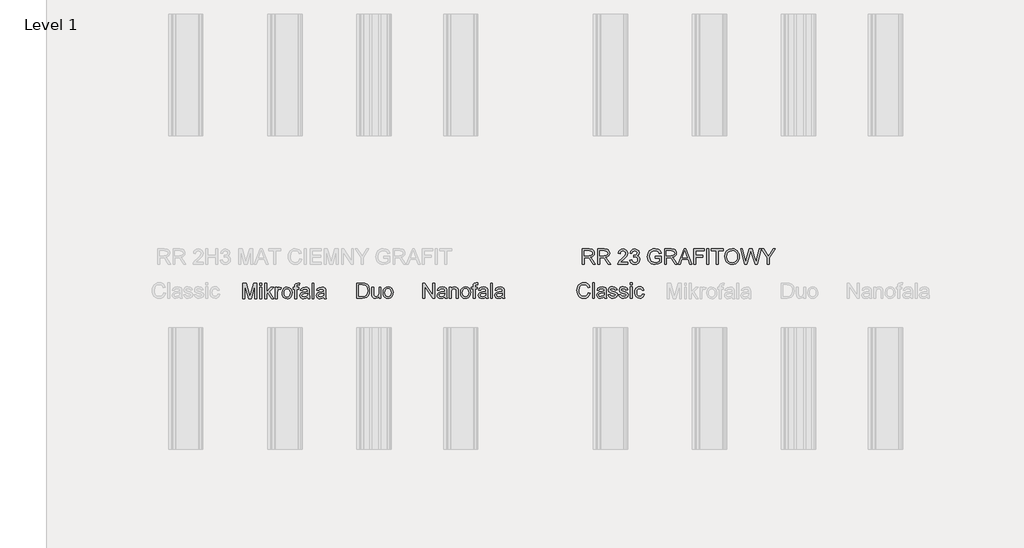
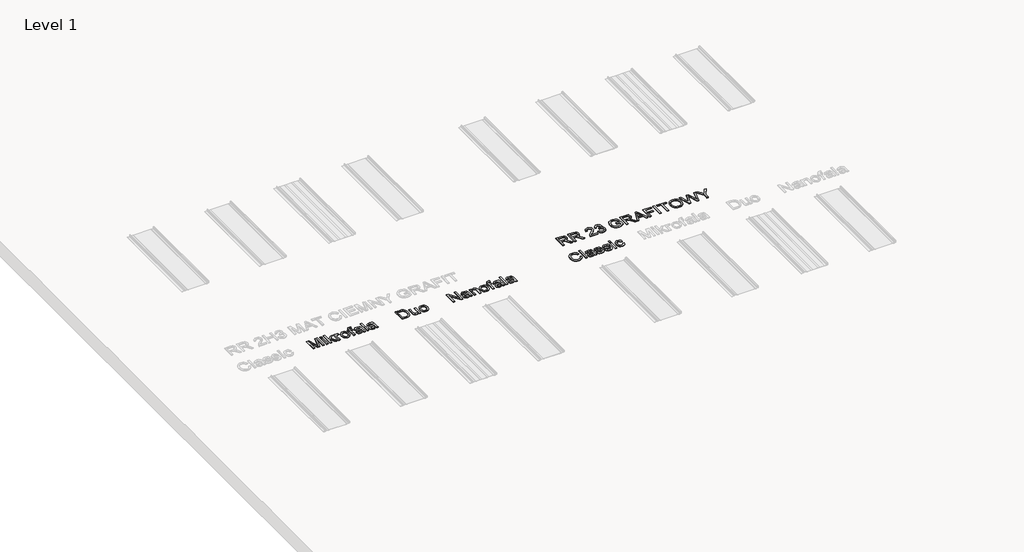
# One storey, part 14 of 24: 5 proxies.
"""IFC4 building model written with IfcOpenShell, lengths in millimetres."""

from ifc_helpers import new_model, si_unit, frame, origin, place, context, project, spatial, polyline, outline, extrude, element, save

model = new_model("IFC4")

# Units and contexts
model_context = context("Model", 3, world=origin())
ifc_project = project(units=[si_unit("LENGTHUNIT", "METRE", prefix="MILLI")], contexts=[model_context])

# Site, building, storey
site = spatial("IfcSite", under=ifc_project)
building = spatial("IfcBuilding", under=site)
storey = spatial("IfcBuildingStorey", under=building, Name="Level 1", Elevation=0.0)

# Proxies
placement = place(None, origin())
element("IfcBuildingElementProxy", 1, Name="150", ObjectType="150", at=placement, inside=storey, context=model_context, shape_type="SweptSolid", body=[
    extrude(outline(polyline([(-7895.6654959, -1975.281387), (-7895.6654959, -1824.5969218), (-7863.3654568, -1824.5969218), (-7832.4633692, -1930.8044538), (-7826.2093753, -1952.9877381), (-7819.4771347, -1928.9650438), (-7789.1636583, -1824.5969218), (-7756.7532546, -1824.5969218), (-7756.7532546, -1975.281387), (-7775.5888127, -1975.281387), (-7775.5888127, -1843.4324799), (-7813.44387, -1975.281387), (-7838.9380923, -1975.281387), (-7876.8299378, -1843.4324799), (-7876.8299378, -1975.281387), (-7895.6654959, -1975.281387)])), frame((0.0, 0.0, 600.0), z_axis=(0.0, 0.0, 1.0), x_axis=(1.0, 0.0, 0.0)), (0.0, 0.0, 1.0), 10.0),
    extrude(outline(polyline([(-7726.1454726, -1843.4324799), (-7726.1454726, -1824.5969218), (-7707.3099144, -1824.5969218), (-7707.3099144, -1843.4324799), (-7726.1454726, -1843.4324799)])), frame((0.0, 0.0, 600.0), z_axis=(0.0, 0.0, 1.0), x_axis=(1.0, 0.0, 0.0)), (0.0, 0.0, 1.0), 10.0),
    extrude(outline(polyline([(-7726.1454726, -1975.281387), (-7726.1454726, -1864.6224829), (-7707.3099144, -1864.6224829), (-7707.3099144, -1975.281387), (-7726.1454726, -1975.281387)])), frame((0.0, 0.0, 600.0), z_axis=(0.0, 0.0, 1.0), x_axis=(1.0, 0.0, 0.0)), (0.0, 0.0, 1.0), 10.0),
    extrude(outline(polyline([(-7679.0565772, -1975.281387), (-7679.0565772, -1824.5969218), (-7660.221019, -1824.5969218), (-7660.221019, -1905.5677489), (-7617.988166, -1864.6224829), (-7591.9421207, -1864.6224829), (-7634.7267968, -1906.0827837), (-7589.587676, -1975.281387), (-7611.5870193, -1975.281387), (-7648.228066, -1919.1793827), (-7660.221019, -1930.841242), (-7660.221019, -1975.281387), (-7679.0565772, -1975.281387)])), frame((0.0, 0.0, 600.0), z_axis=(0.0, 0.0, 1.0), x_axis=(1.0, 0.0, 0.0)), (0.0, 0.0, 1.0), 10.0),
    extrude(outline(polyline([(-7573.1065626, -1975.281387), (-7573.1065626, -1864.6224829), (-7556.6254492, -1864.6224829), (-7556.6254492, -1880.9932316), (-7544.9268017, -1865.9100698), (-7533.1545779, -1862.2680381), (-7514.2454433, -1868.0805736), (-7520.5362255, -1884.9663572), (-7533.7799773, -1881.1035962), (-7544.4301611, -1884.8192044), (-7551.2175839, -1895.1199003), (-7554.2710044, -1917.1192436), (-7554.2710044, -1975.281387), (-7573.1065626, -1975.281387)])), frame((0.0, 0.0, 600.0), z_axis=(0.0, 0.0, 1.0), x_axis=(1.0, 0.0, 0.0)), (0.0, 0.0, 1.0), 10.0),
    extrude(outline(polyline([(-7507.182109, -1919.9519349), (-7503.1078159, -1893.2712932), (-7490.8849367, -1874.5185085), (-7475.7833808, -1865.3306557), (-7457.7019807, -1862.2680381), (-7437.9145279, -1865.9974418), (-7422.1093977, -1877.185653), (-7411.748921, -1894.9497548), (-7408.2954287, -1918.4068306), (-7409.822139, -1937.4355268), (-7414.4022699, -1951.9208803), (-7421.902464, -1962.7688007), (-7432.1893643, -1970.8851972), (-7444.4076451, -1975.9481731), (-7457.7019807, -1977.6358318), (-7477.7285568, -1973.9202236), (-7493.5152929, -1962.7733992), (-7503.765405, -1944.6368168), (-7507.182109, -1919.9519349)]), holes=[polyline([(-7488.3465509, -1919.9151467), (-7486.1668501, -1936.9618787), (-7479.6277476, -1949.1065831), (-7469.7869042, -1956.376851), (-7457.7019807, -1958.8002736), (-7445.6722394, -1956.3630554), (-7435.8497902, -1949.0514008), (-7429.3106877, -1936.745748), (-7427.1309869, -1919.3265355), (-7429.3244833, -1902.7764443), (-7435.9049725, -1890.7972868), (-7445.7412173, -1883.5270189), (-7457.7019807, -1881.1035962), (-7469.7869042, -1883.5178218), (-7479.6277476, -1890.7604986), (-7486.1668501, -1902.8776118), (-7488.3465509, -1919.9151467)])]), frame((0.0, 0.0, 600.0), z_axis=(0.0, 0.0, 1.0), x_axis=(1.0, 0.0, 0.0)), (0.0, 0.0, 1.0), 10.0),
    extrude(outline(polyline([(-7382.3965363, -1975.281387), (-7382.3965363, -1883.458041), (-7398.8776497, -1883.458041), (-7398.8776497, -1864.6224829), (-7382.3965363, -1864.6224829), (-7382.3965363, -1853.4756584), (-7380.4099735, -1837.7670972), (-7370.7714652, -1826.5466964), (-7351.7887543, -1822.242477), (-7334.6086651, -1824.3026162), (-7337.3677801, -1841.960952), (-7348.2202989, -1841.0780352), (-7360.0844933, -1844.2050321), (-7363.5609781, -1855.8668914), (-7363.5609781, -1864.6224829), (-7342.3709752, -1864.6224829), (-7342.3709752, -1883.458041), (-7363.5609781, -1883.458041), (-7363.5609781, -1975.281387), (-7382.3965363, -1975.281387)])), frame((0.0, 0.0, 600.0), z_axis=(0.0, 0.0, 1.0), x_axis=(1.0, 0.0, 0.0)), (0.0, 0.0, 1.0), 10.0),
    extrude(outline(polyline([(-7255.2565187, -1961.1547184), (-7273.5218598, -1973.9202236), (-7293.7001872, -1977.6358318), (-7309.4409381, -1975.4009487), (-7321.0522136, -1968.6962993), (-7328.2121169, -1958.5151651), (-7330.5987514, -1945.8508274), (-7326.9935078, -1930.9516066), (-7317.5205464, -1920.1358759), (-7304.3319769, -1913.9554584), (-7288.0348045, -1911.1227671), (-7255.3668833, -1904.6480439), (-7255.2565187, -1900.4541892), (-7256.5533028, -1892.0480856), (-7260.4436549, -1886.5482498), (-7269.1440641, -1882.4647596), (-7281.2657758, -1881.1035962), (-7300.3220632, -1884.7272339), (-7309.4087484, -1897.5847096), (-7328.2443066, -1895.2302649), (-7320.0957204, -1876.8361651), (-7303.6881834, -1866.0572226), (-7278.8377546, -1862.2680381), (-7256.0106768, -1865.6157643), (-7243.1164129, -1874.0218678), (-7237.3406656, -1886.8057672), (-7236.4209606, -1903.2868806), (-7236.4209606, -1926.7209636), (-7235.4644674, -1959.4440671), (-7231.7120711, -1975.281387), (-7250.5476292, -1975.281387), (-7255.2565187, -1961.1547184)]), holes=[polyline([(-7255.2565187, -1923.4836021), (-7285.6435715, -1929.2593494), (-7301.8487734, -1932.31277), (-7309.1880192, -1937.2791769), (-7311.7631932, -1944.5264522), (-7306.1529928, -1954.7167835), (-7289.6902735, -1958.8002736), (-7270.6339861, -1954.2937192), (-7258.3467275, -1943.386018), (-7255.3668833, -1928.817891), (-7255.2565187, -1923.4836021)])]), frame((0.0, 0.0, 600.0), z_axis=(0.0, 0.0, 1.0), x_axis=(1.0, 0.0, 0.0)), (0.0, 0.0, 1.0), 10.0),
    extrude(outline(polyline([(-7210.5220681, -1975.281387), (-7210.5220681, -1824.5969218), (-7191.68651, -1824.5969218), (-7191.68651, -1975.281387), (-7210.5220681, -1975.281387)])), frame((0.0, 0.0, 600.0), z_axis=(0.0, 0.0, 1.0), x_axis=(1.0, 0.0, 0.0)), (0.0, 0.0, 1.0), 10.0),
    extrude(outline(polyline([(-7092.7998297, -1961.1547184), (-7111.0651707, -1973.9202236), (-7131.2434982, -1977.6358318), (-7146.984249, -1975.4009487), (-7158.5955245, -1968.6962993), (-7165.7554278, -1958.5151651), (-7168.1420623, -1945.8508274), (-7164.5368187, -1930.9516066), (-7155.0638574, -1920.1358759), (-7141.8752878, -1913.9554584), (-7125.5781154, -1911.1227671), (-7092.9101943, -1904.6480439), (-7092.7998297, -1900.4541892), (-7094.0966137, -1892.0480856), (-7097.9869658, -1886.5482498), (-7106.687375, -1882.4647596), (-7118.8090867, -1881.1035962), (-7137.8653741, -1884.7272339), (-7146.9520594, -1897.5847096), (-7165.7876175, -1895.2302649), (-7157.6390313, -1876.8361651), (-7141.2314943, -1866.0572226), (-7116.3810656, -1862.2680381), (-7093.5539878, -1865.6157643), (-7080.6597238, -1874.0218678), (-7074.8839765, -1886.8057672), (-7073.9642715, -1903.2868806), (-7073.9642715, -1926.7209636), (-7073.0077783, -1959.4440671), (-7069.255382, -1975.281387), (-7088.0909401, -1975.281387), (-7092.7998297, -1961.1547184)]), holes=[polyline([(-7092.7998297, -1923.4836021), (-7123.1868825, -1929.2593494), (-7139.3920844, -1932.31277), (-7146.7313302, -1937.2791769), (-7149.3065041, -1944.5264522), (-7143.6963037, -1954.7167835), (-7127.2335844, -1958.8002736), (-7108.1772971, -1954.2937192), (-7095.8900384, -1943.386018), (-7092.9101943, -1928.817891), (-7092.7998297, -1923.4836021)])]), frame((0.0, 0.0, 600.0), z_axis=(0.0, 0.0, 1.0), x_axis=(1.0, 0.0, 0.0)), (0.0, 0.0, 1.0), 10.0),
])
element("IfcBuildingElementProxy", 2, Name="150", ObjectType="150", at=placement, inside=storey, context=model_context, shape_type="SweptSolid", body=[
    extrude(outline(polyline([(-6767.5807075, -1972.1592468), (-6767.5807075, -1821.4747816), (-6715.5989816, -1821.4747816), (-6688.7068077, -1823.6452853), (-6666.5603116, -1834.4242278), (-6656.1400541, -1845.902146), (-6648.7180349, -1860.1759675), (-6644.2758598, -1876.9697805), (-6642.7951347, -1896.0076738), (-6646.8050485, -1926.4131207), (-6657.1057443, -1948.3572817), (-6670.864531, -1962.0240978), (-6688.8723546, -1969.5840728), (-6713.097384, -1972.1592468), (-6767.5807075, -1972.1592468)]), holes=[polyline([(-6748.7451493, -1953.3236886), (-6715.4150406, -1953.3236886), (-6691.1716171, -1950.6013619), (-6677.1921013, -1942.9126282), (-6665.7325771, -1924.2058287), (-6661.6306929, -1895.7133682), (-6663.6402483, -1875.1855529), (-6669.6689145, -1860.0288147), (-6678.5762573, -1849.6177542), (-6689.2218425, -1843.3269721), (-6715.9300754, -1840.3103397), (-6748.7451493, -1840.3103397), (-6748.7451493, -1953.3236886)])]), frame((0.0, 0.0, 600.0), z_axis=(0.0, 0.0, 1.0), x_axis=(1.0, 0.0, 0.0)), (0.0, 0.0, 1.0), 10.0),
    extrude(outline(polyline([(-6548.617344, -1972.1592468), (-6548.617344, -1953.1397476), (-6563.369412, -1969.1702056), (-6582.6096403, -1974.5136916), (-6600.3231584, -1970.7612952), (-6612.5368406, -1961.3435161), (-6618.1470411, -1947.4743649), (-6619.250687, -1929.9631819), (-6619.250687, -1861.5003426), (-6600.4151289, -1861.5003426), (-6600.4151289, -1921.0972259), (-6599.2746947, -1940.300666), (-6591.8250843, -1951.5762492), (-6577.7903862, -1955.6781334), (-6562.0634309, -1951.4842787), (-6551.6707645, -1940.0615427), (-6548.617344, -1919.0738749), (-6548.617344, -1861.5003426), (-6529.7817858, -1861.5003426), (-6529.7817858, -1972.1592468), (-6548.617344, -1972.1592468)])), frame((0.0, 0.0, 600.0), z_axis=(0.0, 0.0, 1.0), x_axis=(1.0, 0.0, 0.0)), (0.0, 0.0, 1.0), 10.0),
    extrude(outline(polyline([(-6508.5917829, -1916.8297947), (-6504.5174898, -1890.149153), (-6492.2946105, -1871.3963683), (-6477.1930546, -1862.2085155), (-6459.1116545, -1859.1458979), (-6439.3242017, -1862.8753016), (-6423.5190715, -1874.0635128), (-6413.1585948, -1891.8276146), (-6409.7051026, -1915.2846903), (-6411.2318129, -1934.3133865), (-6415.8119437, -1948.7987401), (-6423.3121379, -1959.6466604), (-6433.5990382, -1967.7630569), (-6445.8173189, -1972.8260329), (-6459.1116545, -1974.5136916), (-6479.1382307, -1970.7980834), (-6494.9249668, -1959.651259), (-6505.1750789, -1941.5146766), (-6508.5917829, -1916.8297947)]), holes=[polyline([(-6489.7562247, -1916.7930065), (-6487.5765239, -1933.8397385), (-6481.0374215, -1945.9844428), (-6471.1965781, -1953.2547108), (-6459.1116545, -1955.6781334), (-6447.0819133, -1953.2409152), (-6437.259464, -1945.9292605), (-6430.7203616, -1933.6236078), (-6428.5406607, -1916.2043953), (-6430.7341571, -1899.6543041), (-6437.3146463, -1887.6751466), (-6447.1508912, -1880.4048787), (-6459.1116545, -1877.981456), (-6471.1965781, -1880.3956816), (-6481.0374215, -1887.6383584), (-6487.5765239, -1899.7554716), (-6489.7562247, -1916.7930065)])]), frame((0.0, 0.0, 600.0), z_axis=(0.0, 0.0, 1.0), x_axis=(1.0, 0.0, 0.0)), (0.0, 0.0, 1.0), 10.0),
])
element("IfcBuildingElementProxy", 3, Name="150", ObjectType="150", at=placement, inside=storey, context=model_context, shape_type="SweptSolid", body=[
    extrude(outline(polyline([(-4479.0085992, -1917.1818641), (-4460.1730411, -1922.0379064), (-4468.8642532, -1943.986666), (-4482.5034782, -1960.0217224), (-4500.4193314, -1969.8303761), (-4521.9404281, -1973.0999274), (-4543.7880201, -1970.6259209), (-4561.1382547, -1963.2039017), (-4574.4371888, -1951.091387), (-4584.1308794, -1934.5458943), (-4590.049181, -1915.0941338), (-4592.0219482, -1894.2628158), (-4589.7916636, -1872.2910636), (-4583.1008098, -1853.3175497), (-4572.2988747, -1837.9446809), (-4557.7353462, -1826.7748638), (-4540.4632865, -1819.9736454), (-4521.5357579, -1817.7065726), (-4500.8837824, -1820.6404315), (-4483.8094593, -1829.4420082), (-4470.8462175, -1843.5686769), (-4462.5274859, -1862.4778114), (-4481.363044, -1866.9659718), (-4487.8929494, -1853.2301778), (-4496.8140878, -1843.8078002), (-4508.2368238, -1838.3585481), (-4522.2715219, -1836.5421308), (-4538.4491326, -1838.5562847), (-4551.7388697, -1844.5987464), (-4561.8234349, -1854.0349196), (-4568.38553, -1866.2302078), (-4573.18639, -1894.2260276), (-4571.7654458, -1911.626846), (-4567.5026132, -1926.6732196), (-4560.2369438, -1938.7903328), (-4549.8074892, -1947.40337), (-4537.3040999, -1952.5491194), (-4523.8166263, -1954.2643692), (-4508.0942695, -1951.9283185), (-4494.9930719, -1944.9201665), (-4485.1016448, -1933.3134896), (-4479.0085992, -1917.1818641)])), frame((0.0, 0.0, 600.0), z_axis=(0.0, 0.0, 1.0), x_axis=(1.0, 0.0, 0.0)), (0.0, 0.0, 1.0), 10.0),
    extrude(outline(polyline([(-4436.6285934, -1970.7454826), (-4436.6285934, -1820.0610174), (-4417.7930352, -1820.0610174), (-4417.7930352, -1970.7454826), (-4436.6285934, -1970.7454826)])), frame((0.0, 0.0, 600.0), z_axis=(0.0, 0.0, 1.0), x_axis=(1.0, 0.0, 0.0)), (0.0, 0.0, 1.0), 10.0),
    extrude(outline(polyline([(-4318.9063549, -1956.618814), (-4337.171696, -1969.3843192), (-4357.3500234, -1973.0999274), (-4373.0907743, -1970.8650442), (-4384.7020498, -1964.1603949), (-4391.8619531, -1953.9792607), (-4394.2485875, -1941.314923), (-4390.643344, -1926.4157022), (-4381.1703826, -1915.5999715), (-4367.9818131, -1909.419554), (-4351.6846407, -1906.5868626), (-4319.0167195, -1900.1121395), (-4318.9063549, -1895.9182848), (-4320.203139, -1887.5121812), (-4324.0934911, -1882.0123454), (-4332.7939003, -1877.9288552), (-4344.915612, -1876.5676918), (-4363.9718993, -1880.1913295), (-4373.0585846, -1893.0488052), (-4391.8941428, -1890.6943604), (-4383.7455566, -1872.3002607), (-4367.3380196, -1861.5213182), (-4342.4875908, -1857.7321337), (-4319.660513, -1861.0798598), (-4306.7662491, -1869.4859634), (-4300.9905018, -1882.2698628), (-4300.0707968, -1898.7509761), (-4300.0707968, -1922.1850592), (-4299.1143036, -1954.9081627), (-4295.3619072, -1970.7454826), (-4314.1974654, -1970.7454826), (-4318.9063549, -1956.618814)]), holes=[polyline([(-4318.9063549, -1918.9476977), (-4349.2934077, -1924.723445), (-4365.4986096, -1927.7768656), (-4372.8378554, -1932.7432725), (-4375.4130294, -1939.9905478), (-4369.802829, -1950.1808791), (-4353.3401097, -1954.2643692), (-4334.2838223, -1949.7578148), (-4321.9965637, -1938.8501136), (-4319.0167195, -1924.2819866), (-4318.9063549, -1918.9476977)])]), frame((0.0, 0.0, 600.0), z_axis=(0.0, 0.0, 1.0), x_axis=(1.0, 0.0, 0.0)), (0.0, 0.0, 1.0), 10.0),
    extrude(outline(polyline([(-4281.2352386, -1937.7832558), (-4262.3996805, -1935.4288111), (-4259.4290334, -1943.4854268), (-4253.6808772, -1949.4083269), (-4233.7048849, -1954.2643692), (-4214.5014447, -1949.8129971), (-4208.2474508, -1939.3651484), (-4209.8201463, -1934.5642884), (-4214.5382329, -1930.9038625), (-4233.9256141, -1925.5327854), (-4262.2893159, -1916.3173414), (-4274.668545, -1905.5567931), (-4278.8807939, -1890.3632666), (-4275.4962795, -1876.3285685), (-4266.2624414, -1865.6048084), (-4254.2878825, -1860.0313961), (-4238.0826806, -1857.7321337), (-4215.1636323, -1861.4293477), (-4200.5955053, -1871.435738), (-4194.1207822, -1888.3399157), (-4212.9563403, -1890.6943604), (-4220.0380687, -1880.3016941), (-4236.6111526, -1876.5676918), (-4254.6373704, -1880.1361472), (-4260.0452357, -1888.4502803), (-4257.8011555, -1893.931722), (-4250.7746094, -1898.0887885), (-4234.5510134, -1902.0987023), (-4206.9046815, -1910.9646584), (-4194.0655999, -1921.0078368), (-4189.4118926, -1937.3785856), (-4194.8749403, -1955.4048034), (-4210.6386838, -1968.4830083), (-4233.9624023, -1973.0999274), (-4252.9543103, -1970.8742413), (-4266.8142644, -1964.1971831), (-4276.0664966, -1953.1423291), (-4281.2352386, -1937.7832558)])), frame((0.0, 0.0, 600.0), z_axis=(0.0, 0.0, 1.0), x_axis=(1.0, 0.0, 0.0)), (0.0, 0.0, 1.0), 10.0),
    extrude(outline(polyline([(-4175.285224, -1937.7832558), (-4156.4496659, -1935.4288111), (-4153.4790188, -1943.4854268), (-4147.7308626, -1949.4083269), (-4127.7548702, -1954.2643692), (-4108.5514301, -1949.8129971), (-4102.2974362, -1939.3651484), (-4103.8701317, -1934.5642884), (-4108.5882183, -1930.9038625), (-4127.9755994, -1925.5327854), (-4156.3393013, -1916.3173414), (-4168.7185304, -1905.5567931), (-4172.9307793, -1890.3632666), (-4169.5462649, -1876.3285685), (-4160.3124268, -1865.6048084), (-4148.3378679, -1860.0313961), (-4132.132666, -1857.7321337), (-4109.2136177, -1861.4293477), (-4094.6454907, -1871.435738), (-4088.1707676, -1888.3399157), (-4107.0063257, -1890.6943604), (-4114.0880541, -1880.3016941), (-4130.661138, -1876.5676918), (-4148.6873558, -1880.1361472), (-4154.0952211, -1888.4502803), (-4151.8511409, -1893.931722), (-4144.8245948, -1898.0887885), (-4128.6009988, -1902.0987023), (-4100.9546669, -1910.9646584), (-4088.1155853, -1921.0078368), (-4083.461878, -1937.3785856), (-4088.9249257, -1955.4048034), (-4104.6886691, -1968.4830083), (-4128.0123876, -1973.0999274), (-4147.0042956, -1970.8742413), (-4160.8642498, -1964.1971831), (-4170.116482, -1953.1423291), (-4175.285224, -1937.7832558)])), frame((0.0, 0.0, 600.0), z_axis=(0.0, 0.0, 1.0), x_axis=(1.0, 0.0, 0.0)), (0.0, 0.0, 1.0), 10.0),
    extrude(outline(polyline([(-4062.2718751, -1838.8965755), (-4062.2718751, -1820.0610174), (-4043.4363169, -1820.0610174), (-4043.4363169, -1838.8965755), (-4062.2718751, -1838.8965755)])), frame((0.0, 0.0, 600.0), z_axis=(0.0, 0.0, 1.0), x_axis=(1.0, 0.0, 0.0)), (0.0, 0.0, 1.0), 10.0),
    extrude(outline(polyline([(-4062.2718751, -1970.7454826), (-4062.2718751, -1860.0865784), (-4043.4363169, -1860.0865784), (-4043.4363169, -1970.7454826), (-4062.2718751, -1970.7454826)])), frame((0.0, 0.0, 600.0), z_axis=(0.0, 0.0, 1.0), x_axis=(1.0, 0.0, 0.0)), (0.0, 0.0, 1.0), 10.0),
    extrude(outline(polyline([(-3944.5496366, -1930.7199215), (-3925.7140785, -1933.0743663), (-3930.965594, -1949.8267926), (-3940.8340285, -1962.4865318), (-3954.39048, -1970.4465785), (-3970.7060465, -1973.0999274), (-3990.7418197, -1969.3981148), (-4006.4089941, -1958.2926771), (-4016.5211505, -1940.2710578), (-4019.8918693, -1915.8207007), (-4018.452531, -1899.0590773), (-4014.134516, -1884.532337), (-4006.8688466, -1872.8014999), (-3996.5865449, -1864.427586), (-3984.2854906, -1859.4059968), (-3970.9635639, -1857.7321337), (-3955.0480691, -1860.0313961), (-3942.3239506, -1866.9291836), (-3933.1958786, -1878.0576139), (-3928.0685233, -1893.0488052), (-3946.9040814, -1895.40325), (-3955.6412788, -1881.2949755), (-3970.8164111, -1876.5676918), (-3982.9887066, -1878.8945454), (-3992.6502075, -1885.8751063), (-3998.9547852, -1897.8864535), (-4001.0563111, -1915.3056659), (-3999.0007705, -1932.9594032), (-3992.8341485, -1945.012137), (-3983.3473916, -1951.9513112), (-3971.3314459, -1954.2643692), (-3961.5779745, -1952.8204324), (-3953.5811396, -1948.4886219), (-3947.7640056, -1941.1585731), (-3944.5496366, -1930.7199215)])), frame((0.0, 0.0, 600.0), z_axis=(0.0, 0.0, 1.0), x_axis=(1.0, 0.0, 0.0)), (0.0, 0.0, 1.0), 10.0),
])
element("IfcBuildingElementProxy", 4, Name="150", ObjectType="150", at=placement, inside=storey, context=model_context, shape_type="SweptSolid", body=[
    extrude(outline(polyline([(-6116.7806572, -1972.1592468), (-6116.7806572, -1821.4747816), (-6096.6207239, -1821.4747816), (-6017.8939769, -1940.852489), (-6017.8939769, -1821.4747816), (-5999.0584188, -1821.4747816), (-5999.0584188, -1972.1592468), (-6019.2183521, -1972.1592468), (-6097.9450991, -1852.7447512), (-6097.9450991, -1972.1592468), (-6116.7806572, -1972.1592468)])), frame((0.0, 0.0, 600.0), z_axis=(0.0, 0.0, 1.0), x_axis=(1.0, 0.0, 0.0)), (0.0, 0.0, 1.0), 10.0),
    extrude(outline(polyline([(-5897.8172937, -1958.0325782), (-5916.0826347, -1970.7980834), (-5936.2609622, -1974.5136916), (-5952.001713, -1972.2788084), (-5963.6129885, -1965.5741591), (-5970.7728919, -1955.3930249), (-5973.1595263, -1942.7286872), (-5969.5542827, -1927.8294664), (-5960.0813214, -1917.0137357), (-5946.8927518, -1910.8333182), (-5930.5955795, -1908.0006268), (-5897.9276583, -1901.5259037), (-5897.8172937, -1897.332049), (-5899.1140777, -1888.9259454), (-5903.0044298, -1883.4261096), (-5911.704839, -1879.3426194), (-5923.8265507, -1877.981456), (-5942.8828381, -1881.6050937), (-5951.9695234, -1894.4625694), (-5970.8050815, -1892.1081246), (-5962.6564953, -1873.7140249), (-5946.2489583, -1862.9350824), (-5921.3985296, -1859.1458979), (-5898.5714518, -1862.493624), (-5885.6771878, -1870.8997276), (-5879.9014405, -1883.683627), (-5878.9817355, -1900.1647403), (-5878.9817355, -1923.5988234), (-5878.0252423, -1956.3219269), (-5874.272846, -1972.1592468), (-5893.1084041, -1972.1592468), (-5897.8172937, -1958.0325782)]), holes=[polyline([(-5897.8172937, -1920.3614619), (-5928.2043465, -1926.1372092), (-5944.4095484, -1929.1906298), (-5951.7487942, -1934.1570367), (-5954.3239681, -1941.404312), (-5948.7137677, -1951.5946433), (-5932.2510484, -1955.6781334), (-5913.1947611, -1951.171579), (-5900.9075024, -1940.2638778), (-5897.9276583, -1925.6957508), (-5897.8172937, -1920.3614619)])]), frame((0.0, 0.0, 600.0), z_axis=(0.0, 0.0, 1.0), x_axis=(1.0, 0.0, 0.0)), (0.0, 0.0, 1.0), 10.0),
    extrude(outline(polyline([(-5853.0828431, -1972.1592468), (-5853.0828431, -1861.5003426), (-5834.2472849, -1861.5003426), (-5834.2472849, -1876.9513864), (-5819.8447048, -1863.59727), (-5800.1814122, -1859.1458979), (-5782.3943177, -1862.7327473), (-5770.2542119, -1872.1505264), (-5764.6072232, -1886.0012835), (-5763.6139418, -1904.2114423), (-5763.6139418, -1972.1592468), (-5782.4495, -1972.1592468), (-5782.4495, -1906.749828), (-5784.6200038, -1890.0847737), (-5792.2903434, -1881.2739999), (-5805.2213955, -1877.981456), (-5816.2532568, -1879.8300631), (-5825.6572403, -1885.3758841), (-5832.0997738, -1896.0904472), (-5834.2472849, -1913.4452804), (-5834.2472849, -1972.1592468), (-5853.0828431, -1972.1592468)])), frame((0.0, 0.0, 600.0), z_axis=(0.0, 0.0, 1.0), x_axis=(1.0, 0.0, 0.0)), (0.0, 0.0, 1.0), 10.0),
    extrude(outline(polyline([(-5742.4239389, -1916.8297947), (-5738.3496458, -1890.149153), (-5726.1267665, -1871.3963683), (-5711.0252106, -1862.2085155), (-5692.9438106, -1859.1458979), (-5673.1563578, -1862.8753016), (-5657.3512275, -1874.0635128), (-5646.9907508, -1891.8276146), (-5643.5372586, -1915.2846903), (-5645.0639689, -1934.3133865), (-5649.6440997, -1948.7987401), (-5657.1442939, -1959.6466604), (-5667.4311942, -1967.7630569), (-5679.649475, -1972.8260329), (-5692.9438106, -1974.5136916), (-5712.9703867, -1970.7980834), (-5728.7571228, -1959.651259), (-5739.0072349, -1941.5146766), (-5742.4239389, -1916.8297947)]), holes=[polyline([(-5723.5883808, -1916.7930065), (-5721.4086799, -1933.8397385), (-5714.8695775, -1945.9844428), (-5705.0287341, -1953.2547108), (-5692.9438106, -1955.6781334), (-5680.9140693, -1953.2409152), (-5671.0916201, -1945.9292605), (-5664.5525176, -1933.6236078), (-5662.3728168, -1916.2043953), (-5664.5663132, -1899.6543041), (-5671.1468024, -1887.6751466), (-5680.9830472, -1880.4048787), (-5692.9438106, -1877.981456), (-5705.0287341, -1880.3956816), (-5714.8695775, -1887.6383584), (-5721.4086799, -1899.7554716), (-5723.5883808, -1916.7930065)])]), frame((0.0, 0.0, 600.0), z_axis=(0.0, 0.0, 1.0), x_axis=(1.0, 0.0, 0.0)), (0.0, 0.0, 1.0), 10.0),
    extrude(outline(polyline([(-5617.6383662, -1972.1592468), (-5617.6383662, -1880.3359008), (-5634.1194795, -1880.3359008), (-5634.1194795, -1861.5003426), (-5617.6383662, -1861.5003426), (-5617.6383662, -1850.3535182), (-5615.6518034, -1834.644957), (-5606.0132951, -1823.4245561), (-5587.0305842, -1819.1203368), (-5569.850495, -1821.180476), (-5572.6096099, -1838.8388117), (-5583.4621288, -1837.955895), (-5595.3263231, -1841.0828919), (-5598.802808, -1852.7447512), (-5598.802808, -1861.5003426), (-5577.6128051, -1861.5003426), (-5577.6128051, -1880.3359008), (-5598.802808, -1880.3359008), (-5598.802808, -1972.1592468), (-5617.6383662, -1972.1592468)])), frame((0.0, 0.0, 600.0), z_axis=(0.0, 0.0, 1.0), x_axis=(1.0, 0.0, 0.0)), (0.0, 0.0, 1.0), 10.0),
    extrude(outline(polyline([(-5490.4983486, -1958.0325782), (-5508.7636897, -1970.7980834), (-5528.9420171, -1974.5136916), (-5544.682768, -1972.2788084), (-5556.2940435, -1965.5741591), (-5563.4539468, -1955.3930249), (-5565.8405812, -1942.7286872), (-5562.2353377, -1927.8294664), (-5552.7623763, -1917.0137357), (-5539.5738068, -1910.8333182), (-5523.2766344, -1908.0006268), (-5490.6087132, -1901.5259037), (-5490.4983486, -1897.332049), (-5491.7951327, -1888.9259454), (-5495.6854848, -1883.4261096), (-5504.3858939, -1879.3426194), (-5516.5076057, -1877.981456), (-5535.563893, -1881.6050937), (-5544.6505783, -1894.4625694), (-5563.4861365, -1892.1081246), (-5555.3375503, -1873.7140249), (-5538.9300133, -1862.9350824), (-5514.0795845, -1859.1458979), (-5491.2525067, -1862.493624), (-5478.3582428, -1870.8997276), (-5472.5824955, -1883.683627), (-5471.6627905, -1900.1647403), (-5471.6627905, -1923.5988234), (-5470.7062973, -1956.3219269), (-5466.9539009, -1972.1592468), (-5485.7894591, -1972.1592468), (-5490.4983486, -1958.0325782)]), holes=[polyline([(-5490.4983486, -1920.3614619), (-5520.8854014, -1926.1372092), (-5537.0906033, -1929.1906298), (-5544.4298491, -1934.1570367), (-5547.0050231, -1941.404312), (-5541.3948227, -1951.5946433), (-5524.9321034, -1955.6781334), (-5505.875816, -1951.171579), (-5493.5885574, -1940.2638778), (-5490.6087132, -1925.6957508), (-5490.4983486, -1920.3614619)])]), frame((0.0, 0.0, 600.0), z_axis=(0.0, 0.0, 1.0), x_axis=(1.0, 0.0, 0.0)), (0.0, 0.0, 1.0), 10.0),
    extrude(outline(polyline([(-5445.763898, -1972.1592468), (-5445.763898, -1821.4747816), (-5426.9283399, -1821.4747816), (-5426.9283399, -1972.1592468), (-5445.763898, -1972.1592468)])), frame((0.0, 0.0, 600.0), z_axis=(0.0, 0.0, 1.0), x_axis=(1.0, 0.0, 0.0)), (0.0, 0.0, 1.0), 10.0),
    extrude(outline(polyline([(-5328.0416596, -1958.0325782), (-5346.3070006, -1970.7980834), (-5366.485328, -1974.5136916), (-5382.2260789, -1972.2788084), (-5393.8373544, -1965.5741591), (-5400.9972577, -1955.3930249), (-5403.3838922, -1942.7286872), (-5399.7786486, -1927.8294664), (-5390.3056872, -1917.0137357), (-5377.1171177, -1910.8333182), (-5360.8199453, -1908.0006268), (-5328.1520242, -1901.5259037), (-5328.0416596, -1897.332049), (-5329.3384436, -1888.9259454), (-5333.2287957, -1883.4261096), (-5341.9292049, -1879.3426194), (-5354.0509166, -1877.981456), (-5373.107204, -1881.6050937), (-5382.1938892, -1894.4625694), (-5401.0294474, -1892.1081246), (-5392.8808612, -1873.7140249), (-5376.4733242, -1862.9350824), (-5351.6228954, -1859.1458979), (-5328.7958176, -1862.493624), (-5315.9015537, -1870.8997276), (-5310.1258064, -1883.683627), (-5309.2061014, -1900.1647403), (-5309.2061014, -1923.5988234), (-5308.2496082, -1956.3219269), (-5304.4972119, -1972.1592468), (-5323.33277, -1972.1592468), (-5328.0416596, -1958.0325782)]), holes=[polyline([(-5328.0416596, -1920.3614619), (-5358.4287124, -1926.1372092), (-5374.6339142, -1929.1906298), (-5381.97316, -1934.1570367), (-5384.548334, -1941.404312), (-5378.9381336, -1951.5946433), (-5362.4754143, -1955.6781334), (-5343.419127, -1951.171579), (-5331.1318683, -1940.2638778), (-5328.1520242, -1925.6957508), (-5328.0416596, -1920.3614619)])]), frame((0.0, 0.0, 600.0), z_axis=(0.0, 0.0, 1.0), x_axis=(1.0, 0.0, 0.0)), (0.0, 0.0, 1.0), 10.0),
])
element("IfcBuildingElementProxy", 5, Name="150 Blue", ObjectType="150 Blue", at=placement, inside=storey, context=model_context, shape_type="SweptSolid", body=[
    extrude(outline(polyline([(-4536.4118342, -1635.6514112), (-4536.4118342, -1484.966946), (-4471.4806621, -1484.966946), (-4441.3327325, -1489.032042), (-4432.0529092, -1494.6606365), (-4424.8516192, -1503.416228), (-4420.2301016, -1514.2733454), (-4418.6895957, -1526.2065176), (-4421.2417771, -1541.0505561), (-4428.8983211, -1553.3562089), (-4441.8891541, -1562.3785148), (-4460.4442022, -1567.3725129), (-4449.7388361, -1575.4291286), (-4434.4717333, -1594.8165097), (-4409.3453931, -1635.6514112), (-4431.2343718, -1635.6514112), (-4450.8424821, -1604.4182298), (-4465.0059389, -1583.7432617), (-4474.9571469, -1573.9759947), (-4483.9150735, -1570.3891452), (-4494.8411687, -1569.7269577), (-4517.576276, -1569.7269577), (-4517.576276, -1635.6514112), (-4536.4118342, -1635.6514112)]), holes=[polyline([(-4517.576276, -1550.8913995), (-4475.4169994, -1550.8913995), (-4453.9142968, -1548.224255), (-4441.7006145, -1539.6893927), (-4437.5251539, -1526.9054934), (-4439.5163152, -1517.7176406), (-4445.4897991, -1510.3140154), (-4455.7675023, -1505.4303819), (-4470.6713217, -1503.8025041), (-4517.576276, -1503.8025041), (-4517.576276, -1550.8913995)])]), frame((0.0, 0.0, 600.0), z_axis=(0.0, 0.0, 1.0), x_axis=(1.0, 0.0, 0.0)), (0.0, 0.0, 1.0), 10.0),
    extrude(outline(polyline([(-4385.727369, -1635.6514112), (-4385.727369, -1484.966946), (-4320.7961968, -1484.966946), (-4290.6482673, -1489.032042), (-4281.368444, -1494.6606365), (-4274.1671539, -1503.416228), (-4269.5456364, -1514.2733454), (-4268.0051305, -1526.2065176), (-4270.5573119, -1541.0505561), (-4278.2138559, -1553.3562089), (-4291.2046888, -1562.3785148), (-4309.759737, -1567.3725129), (-4299.0543709, -1575.4291286), (-4283.7872681, -1594.8165097), (-4258.6609278, -1635.6514112), (-4280.5499066, -1635.6514112), (-4300.1580169, -1604.4182298), (-4314.3214737, -1583.7432617), (-4324.2726817, -1573.9759947), (-4333.2306083, -1570.3891452), (-4344.1567035, -1569.7269577), (-4366.8918108, -1569.7269577), (-4366.8918108, -1635.6514112), (-4385.727369, -1635.6514112)]), holes=[polyline([(-4366.8918108, -1550.8913995), (-4324.7325342, -1550.8913995), (-4303.2298316, -1548.224255), (-4291.0161493, -1539.6893927), (-4286.8406887, -1526.9054934), (-4288.83185, -1517.7176406), (-4294.8053339, -1510.3140154), (-4305.0830371, -1505.4303819), (-4319.9868564, -1503.8025041), (-4366.8918108, -1503.8025041), (-4366.8918108, -1550.8913995)])]), frame((0.0, 0.0, 600.0), z_axis=(0.0, 0.0, 1.0), x_axis=(1.0, 0.0, 0.0)), (0.0, 0.0, 1.0), 10.0),
    extrude(outline(polyline([(-4086.7128833, -1616.815853), (-4086.7128833, -1635.6514112), (-4185.5995636, -1635.6514112), (-4183.5762126, -1622.6651768), (-4172.1166885, -1602.6707903), (-4148.5170585, -1580.8369939), (-4116.0146842, -1549.4566597), (-4109.9308357, -1538.6409291), (-4107.9028862, -1528.119504), (-4109.8204711, -1518.6879293), (-4115.5732258, -1510.8474443), (-4124.4161893, -1505.5637392), (-4135.6044005, -1503.8025041), (-4147.3536317, -1505.5223524), (-4156.4817037, -1510.6818974), (-4162.3724141, -1518.8764689), (-4164.4095607, -1529.7013966), (-4183.2451188, -1527.3469518), (-4178.6787836, -1509.127596), (-4168.8057505, -1495.8194648), (-4154.1410545, -1487.6800757), (-4135.1997303, -1484.966946), (-4116.1204503, -1487.9835783), (-4101.4833454, -1497.0334754), (-4092.1713324, -1510.5531387), (-4089.0673281, -1526.9790698), (-4092.4150542, -1544.8397407), (-4103.5434846, -1563.3074168), (-4130.5276289, -1589.1143388), (-4152.1958784, -1607.2325271), (-4160.6939525, -1616.815853), (-4086.7128833, -1616.815853)])), frame((0.0, 0.0, 600.0), z_axis=(0.0, 0.0, 1.0), x_axis=(1.0, 0.0, 0.0)), (0.0, 0.0, 1.0), 10.0),
    extrude(outline(polyline([(-4067.8773251, -1595.6258501), (-4049.041767, -1593.2714053), (-4044.8249196, -1605.1080085), (-4038.6491006, -1613.1002449), (-4030.2108074, -1617.6527846), (-4019.2065372, -1619.1702978), (-4006.2938792, -1617.0825675), (-3996.3242771, -1610.8193765), (-3989.9507215, -1601.4751738), (-3987.826203, -1590.1444084), (-3989.9323274, -1579.3884586), (-3996.2507007, -1570.6650567), (-4005.8156326, -1564.8847109), (-4017.6614328, -1562.9579289), (-4030.8683964, -1565.0180681), (-4028.7714691, -1546.18251), (-4025.7548367, -1546.4032392), (-4004.3808928, -1540.9953738), (-3997.2623762, -1534.1343746), (-3994.8895373, -1524.3671076), (-3996.6093856, -1516.232317), (-4001.7689306, -1509.6334337), (-4009.6416053, -1505.2602365), (-4019.5008428, -1503.8025041), (-4029.3784744, -1505.2740321), (-4037.4534841, -1509.688616), (-4043.3487931, -1517.0462559), (-4046.6873222, -1527.3469518), (-4065.5228804, -1524.992507), (-4059.9770593, -1508.0791323), (-4050.1086248, -1495.4515828), (-4036.6073556, -1487.5881052), (-4020.1630304, -1484.966946), (-3997.4463172, -1490.135688), (-3981.553815, -1504.2623566), (-3976.0539791, -1523.2634617), (-3981.2779035, -1540.6274918), (-3996.7289473, -1553.0986915), (-3984.9383293, -1557.8627633), (-3976.2011319, -1565.9745613), (-3970.7932666, -1576.9926271), (-3968.9906448, -1590.4755022), (-3972.5958884, -1608.8328137), (-3983.4116191, -1624.1734929), (-3999.7363826, -1634.5477652), (-4019.8687248, -1638.005856), (-4038.0788835, -1635.0536029), (-4052.9045279, -1626.1968439), (-4063.2144209, -1612.6495894), (-4067.8773251, -1595.6258501)])), frame((0.0, 0.0, 600.0), z_axis=(0.0, 0.0, 1.0), x_axis=(1.0, 0.0, 0.0)), (0.0, 0.0, 1.0), 10.0),
    extrude(outline(polyline([(-3815.9517348, -1576.790292), (-3815.9517348, -1557.9547338), (-3754.7361709, -1557.9547338), (-3754.7361709, -1614.2774673), (-3784.9576768, -1632.0461676), (-3816.908228, -1638.005856), (-3838.0384501, -1635.6376156), (-3857.1361242, -1628.5328946), (-3873.0010353, -1616.9400132), (-3884.4329683, -1601.1072918), (-3891.3445512, -1582.1153838), (-3893.6484122, -1561.0449426), (-3891.3537483, -1539.82275), (-3884.4697564, -1520.0812824), (-3873.2815453, -1503.5219941), (-3858.0742233, -1491.8463393), (-3839.5513648, -1484.9209607), (-3818.4165442, -1482.6125012), (-3788.9491964, -1487.9651842), (-3777.1999652, -1494.3663309), (-3768.2926224, -1502.864405), (-3756.9066746, -1527.7884102), (-3774.2707048, -1532.6812407), (-3782.8607494, -1515.2620283), (-3797.539241, -1505.2188498), (-3818.7108498, -1501.4480593), (-3842.8255146, -1505.5131554), (-3859.2330516, -1516.1817333), (-3868.9267422, -1530.694678), (-3874.8128541, -1560.2723904), (-3873.042422, -1578.2848126), (-3867.7311257, -1593.1058584), (-3859.0399135, -1604.6297619), (-3847.1297339, -1612.750757), (-3833.1916048, -1617.5654126), (-3818.4165442, -1619.1702978), (-3792.6464105, -1614.3326496), (-3773.571729, -1604.0135596), (-3773.571729, -1576.790292), (-3815.9517348, -1576.790292)])), frame((0.0, 0.0, 600.0), z_axis=(0.0, 0.0, 1.0), x_axis=(1.0, 0.0, 0.0)), (0.0, 0.0, 1.0), 10.0),
    extrude(outline(polyline([(-3724.1283889, -1635.6514112), (-3724.1283889, -1484.966946), (-3659.1972167, -1484.966946), (-3629.0492872, -1489.032042), (-3619.7694639, -1494.6606365), (-3612.5681738, -1503.416228), (-3607.9466563, -1514.2733454), (-3606.4061504, -1526.2065176), (-3608.9583317, -1541.0505561), (-3616.6148758, -1553.3562089), (-3629.6057087, -1562.3785148), (-3648.1607568, -1567.3725129), (-3637.4553908, -1575.4291286), (-3622.188288, -1594.8165097), (-3597.0619477, -1635.6514112), (-3618.9509264, -1635.6514112), (-3638.5590368, -1604.4182298), (-3652.7224936, -1583.7432617), (-3662.6737016, -1573.9759947), (-3671.6316281, -1570.3891452), (-3682.5577234, -1569.7269577), (-3705.2928307, -1569.7269577), (-3705.2928307, -1635.6514112), (-3724.1283889, -1635.6514112)]), holes=[polyline([(-3705.2928307, -1550.8913995), (-3663.1335541, -1550.8913995), (-3641.6308514, -1548.224255), (-3629.4171692, -1539.6893927), (-3625.2417085, -1526.9054934), (-3627.2328698, -1517.7176406), (-3633.2063537, -1510.3140154), (-3643.484057, -1505.4303819), (-3658.3878763, -1503.8025041), (-3705.2928307, -1503.8025041), (-3705.2928307, -1550.8913995)])]), frame((0.0, 0.0, 600.0), z_axis=(0.0, 0.0, 1.0), x_axis=(1.0, 0.0, 0.0)), (0.0, 0.0, 1.0), 10.0),
    extrude(outline(polyline([(-3590.9551066, -1635.6514112), (-3530.8064004, -1484.966946), (-3514.7667454, -1484.966946), (-3454.6548274, -1635.6514112), (-3474.5572433, -1635.6514112), (-3491.7741207, -1588.5625158), (-3553.8726015, -1588.5625158), (-3571.0894789, -1635.6514112), (-3590.9551066, -1635.6514112)]), holes=[polyline([(-3546.95642, -1569.7269577), (-3498.653514, -1569.7269577), (-3512.2651478, -1532.6812407), (-3522.8233611, -1503.8025041), (-3532.204352, -1529.4438792), (-3546.95642, -1569.7269577)])]), frame((0.0, 0.0, 600.0), z_axis=(0.0, 0.0, 1.0), x_axis=(1.0, 0.0, 0.0)), (0.0, 0.0, 1.0), 10.0),
    extrude(outline(polyline([(-3434.5316822, -1635.6514112), (-3434.5316822, -1484.966946), (-3333.2905572, -1484.966946), (-3333.2905572, -1503.8025041), (-3415.6961241, -1503.8025041), (-3415.6961241, -1548.5369547), (-3345.062781, -1548.5369547), (-3345.062781, -1567.3725129), (-3415.6961241, -1567.3725129), (-3415.6961241, -1635.6514112), (-3434.5316822, -1635.6514112)])), frame((0.0, 0.0, 600.0), z_axis=(0.0, 0.0, 1.0), x_axis=(1.0, 0.0, 0.0)), (0.0, 0.0, 1.0), 10.0),
    extrude(outline(polyline([(-3305.0372199, -1635.6514112), (-3305.0372199, -1484.966946), (-3286.2016618, -1484.966946), (-3286.2016618, -1635.6514112), (-3305.0372199, -1635.6514112)])), frame((0.0, 0.0, 600.0), z_axis=(0.0, 0.0, 1.0), x_axis=(1.0, 0.0, 0.0)), (0.0, 0.0, 1.0), 10.0),
    extrude(outline(polyline([(-3210.8594292, -1635.6514112), (-3210.8594292, -1503.8025041), (-3260.3027693, -1503.8025041), (-3260.3027693, -1484.966946), (-3142.5805309, -1484.966946), (-3142.5805309, -1503.8025041), (-3192.023871, -1503.8025041), (-3192.023871, -1635.6514112), (-3210.8594292, -1635.6514112)])), frame((0.0, 0.0, 600.0), z_axis=(0.0, 0.0, 1.0), x_axis=(1.0, 0.0, 0.0)), (0.0, 0.0, 1.0), 10.0),
    extrude(outline(polyline([(-3128.4538623, -1562.2957413), (-3123.432273, -1528.9748296), (-3117.1552865, -1515.356298), (-3108.3675053, -1503.7657159), (-3085.3656836, -1487.9008049), (-3056.5329322, -1482.6125012), (-3036.768472, -1485.0957047), (-3019.0457569, -1492.5453151), (-3004.3304771, -1504.4371006), (-2993.5883228, -1520.2468293), (-2987.0216292, -1539.2111462), (-2984.8327313, -1560.566696), (-2987.1365923, -1582.2073543), (-2994.0481753, -1601.4383856), (-3005.1858027, -1617.2757055), (-3020.167797, -1628.7352297), (-3037.7387608, -1635.6881994), (-3056.6432968, -1638.005856), (-3076.7112596, -1635.4444776), (-3094.5351423, -1627.7603424), (-3109.2136339, -1615.6478277), (-3119.8454236, -1599.8013108), (-3126.3017526, -1581.5681594), (-3128.4538623, -1562.2957413)]), holes=[polyline([(-3109.6183041, -1562.4796823), (-3105.8521122, -1586.0517212), (-3094.5535364, -1604.0135596), (-3077.5711838, -1615.3811133), (-3056.7536614, -1619.1702978), (-3035.6326364, -1615.3443251), (-3018.6226926, -1603.8664068), (-3007.4068903, -1585.3527454), (-3003.6682895, -1560.4195432), (-3005.2685762, -1543.7452917), (-3010.0694362, -1529.3335146), (-3017.9467094, -1517.5474952), (-3028.7762357, -1508.750517), (-3041.840645, -1503.2736737), (-3056.4225676, -1501.4480593), (-3076.6836685, -1504.9659309), (-3093.9097429, -1515.5195457), (-3105.6911638, -1534.295323), (-3109.6183041, -1562.4796823)])]), frame((0.0, 0.0, 600.0), z_axis=(0.0, 0.0, 1.0), x_axis=(1.0, 0.0, 0.0)), (0.0, 0.0, 1.0), 10.0),
    extrude(outline(polyline([(-2931.9680886, -1635.6514112), (-2973.0605075, -1484.966946), (-2953.6363382, -1484.966946), (-2929.7975849, -1584.0007791), (-2922.439945, -1614.5717729), (-2914.5672703, -1587.5324462), (-2884.6952523, -1484.966946), (-2856.6994324, -1484.966946), (-2834.9943947, -1559.3158972), (-2818.8443751, -1614.5717729), (-2811.7074644, -1584.8836959), (-2787.6847701, -1484.966946), (-2768.2238126, -1484.966946), (-2809.2794432, -1635.6514112), (-2829.4393766, -1635.6514112), (-2865.6021767, -1519.4007007), (-2870.64216, -1503.1771047), (-2876.3075428, -1522.7116387), (-2909.2329813, -1635.6514112), (-2931.9680886, -1635.6514112)])), frame((0.0, 0.0, 600.0), z_axis=(0.0, 0.0, 1.0), x_axis=(1.0, 0.0, 0.0)), (0.0, 0.0, 1.0), 10.0),
    extrude(outline(polyline([(-2707.0082486, -1635.6514112), (-2707.0082486, -1571.823885), (-2765.8693678, -1484.966946), (-2743.6860835, -1484.966946), (-2712.2689611, -1531.3568656), (-2696.1925179, -1555.048466), (-2680.0424983, -1529.6646084), (-2651.5316437, -1484.966946), (-2629.3115712, -1484.966946), (-2688.1726904, -1571.823885), (-2688.1726904, -1635.6514112), (-2707.0082486, -1635.6514112)])), frame((0.0, 0.0, 600.0), z_axis=(0.0, 0.0, 1.0), x_axis=(1.0, 0.0, 0.0)), (0.0, 0.0, 1.0), 10.0),
])

save(model, "model.ifc")
